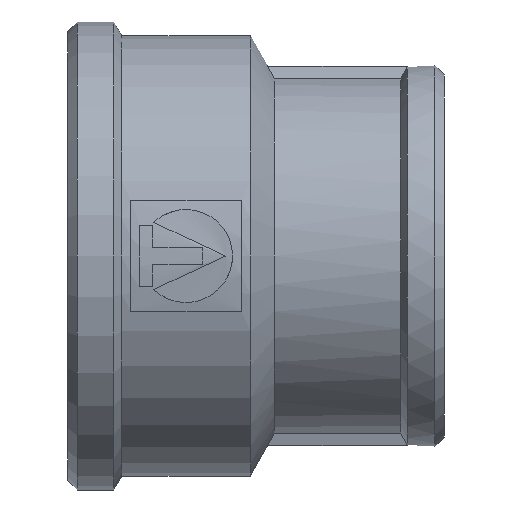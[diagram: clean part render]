
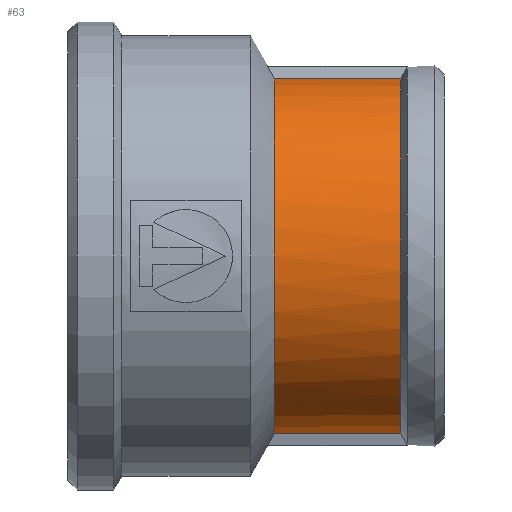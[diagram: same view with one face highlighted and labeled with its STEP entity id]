
A CAD part, left-side view. The second image highlights one B-rep face of the part: STEP entity #63.
In plain terms, the highlighted cylindrical face has radius 19.5 mm (diameter 39 mm), a partial arc.
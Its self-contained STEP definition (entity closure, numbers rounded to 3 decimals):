
#63=ADVANCED_FACE('',(#405),#407,.T.);
#405=FACE_BOUND('',#406,.T.);
#406=EDGE_LOOP('',(#1690,#1691,#1692,#1693,#1694));
#407=CYLINDRICAL_SURFACE('',#408,19.5);
#408=AXIS2_PLACEMENT_3D('',#409,#410,#411);
#409=CARTESIAN_POINT('',(0.,-41.,0.));
#410=DIRECTION('',(0.,1.,0.));
#411=DIRECTION('',(-1.,0.,0.));
#1690=ORIENTED_EDGE('',*,*,#2770,.F.);
#1691=ORIENTED_EDGE('',*,*,#2769,.F.);
#1692=ORIENTED_EDGE('',*,*,#2766,.F.);
#1693=ORIENTED_EDGE('',*,*,#2763,.T.);
#1694=ORIENTED_EDGE('',*,*,#2762,.T.);
#2762=EDGE_CURVE('',#3281,#3279,#3282,.F.);
#2763=EDGE_CURVE('',#3283,#3281,#3284,.F.);
#2766=EDGE_CURVE('',#3283,#3288,#3289,.F.);
#2769=EDGE_CURVE('',#3288,#3291,#3293,.T.);
#2770=EDGE_CURVE('',#3291,#3279,#3294,.T.);
#3279=VERTEX_POINT('',#4197);
#3281=VERTEX_POINT('',#4205);
#3282=CIRCLE('',#4206,19.5);
#3283=VERTEX_POINT('',#4210);
#3284=CIRCLE('',#4211,19.5);
#3288=VERTEX_POINT('',#4227);
#3289=LINE('',#4228,#4229);
#3291=VERTEX_POINT('',#4237);
#3293=CIRCLE('',#4244,19.5);
#3294=LINE('',#4248,#4249);
#4197=CARTESIAN_POINT('',(-2.851,-22.5,-19.291));
#4205=CARTESIAN_POINT('',(-19.5,-22.5,0.));
#4206=AXIS2_PLACEMENT_3D('',#4207,#4208,#4209);
#4207=CARTESIAN_POINT('',(0.,-22.5,0.));
#4208=DIRECTION('',(0.,1.,0.));
#4209=DIRECTION('',(-0.146,0.,-0.989));
#4210=CARTESIAN_POINT('',(-2.851,-22.5,19.291));
#4211=AXIS2_PLACEMENT_3D('',#4212,#4213,#4214);
#4212=CARTESIAN_POINT('',(0.,-22.5,0.));
#4213=DIRECTION('',(0.,1.,0.));
#4214=DIRECTION('',(-1.,0.,0.));
#4227=CARTESIAN_POINT('',(-2.851,-36.278,19.291));
#4228=CARTESIAN_POINT('',(-2.851,-36.278,19.291));
#4229=VECTOR('',#4230,1.);
#4230=DIRECTION('',(0.,1.,0.));
#4237=CARTESIAN_POINT('',(-2.851,-36.278,-19.291));
#4244=AXIS2_PLACEMENT_3D('',#4245,#4246,#4247);
#4245=CARTESIAN_POINT('',(0.,-36.278,0.));
#4246=DIRECTION('',(0.,-1.,0.));
#4247=DIRECTION('',(-0.146,0.,0.989));
#4248=CARTESIAN_POINT('',(-2.851,-36.278,-19.291));
#4249=VECTOR('',#4250,1.);
#4250=DIRECTION('',(0.,1.,0.));
